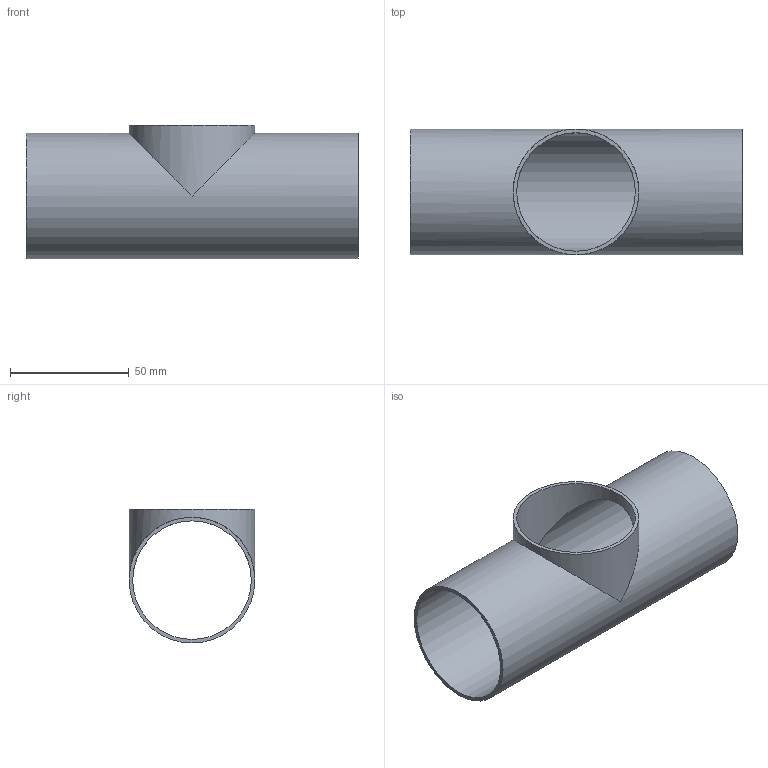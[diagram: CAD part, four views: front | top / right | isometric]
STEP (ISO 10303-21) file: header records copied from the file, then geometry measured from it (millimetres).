
FILE_DESCRIPTION(('FreeCAD Model'),'2;1');
FILE_NAME( '/home/martin/Documents/proyect/accesorios/stp/te_short_DN-50.step', '2018-01-07T08:12:11',('Author'),(''), 'Open CASCADE STEP processor 6.8','FreeCAD','Unknown');
FILE_SCHEMA(('AUTOMOTIVE_DESIGN_CC2 { 1 2 10303 214 -1 1 5 4 }'));
Length unit declared in the file: millimetre
Products named in the file (1): te_short_DN-50
Bounding box: 140 x 53 x 56.5 mm (x, y, z)
Volume: 33298 mm3; surface area: 45119.4 mm2
Topology: 1 solids, 1 shells, 7 faces, 16 edges, 12 vertices
Faces by surface type: cylinder 4, plane 3
Full cylindrical faces by diameter (mm): 50 x2, 53 x2
Entity records: 531 total; most frequent: CARTESIAN_POINT 172, DIRECTION 64, ORIENTED_EDGE 32, PCURVE 32, DEFINITIONAL_REPRESENTATION 32, AXIS2_PLACEMENT_3D 20, LINE 18, VECTOR 18
